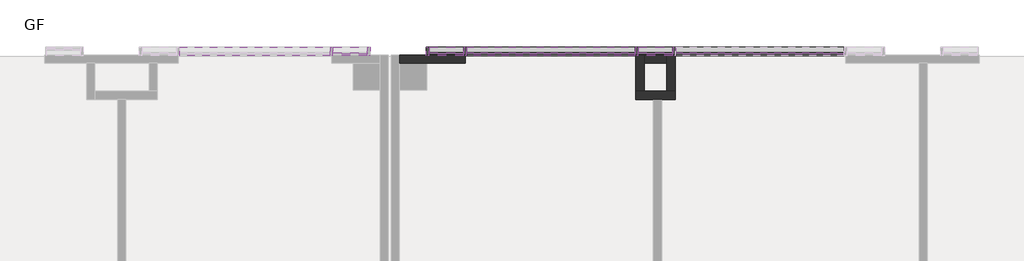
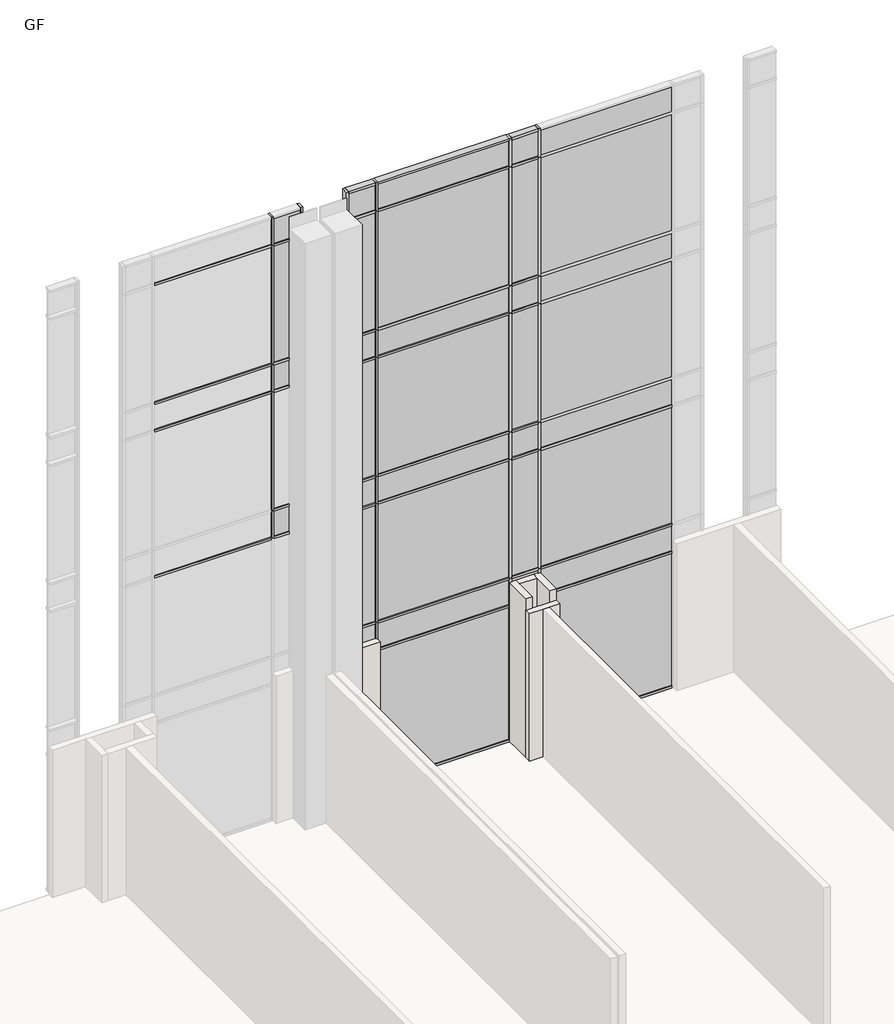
# One storey, part 19 of 23: 81 members, 36 plates, 5 walls.
"""IFC4 building model written with IfcOpenShell, lengths in millimetres."""

from ifc_helpers import new_model, si_unit, frame, origin, place, context, project, spatial, polyline, outline, extrude, faceted_brep, transform, mapped, element, save
from components import rectangular_mullion_50_x_150mm_64d38db8, rectangular_mullion_50_x_150mm_68b3818a, rectangular_mullion_50_x_150mm_f245f1eb, rectangular_mullion_50_x_150mm_5fdcfccd, rectangular_mullion_50_x_150mm_d11e3bb4, rectangular_mullion_50_x_150mm_7d543e93, rectangular_mullion_50_x_150mm_9e0f1e24, rectangular_mullion_50_x_150mm_dbb82e9e, rectangular_mullion_50_x_150mm_32aaa733, rectangular_mullion_50_x_150mm_9b8962c0, rectangular_mullion_50_x_150mm_a95743fc, rectangular_mullion_50_x_150mm_2ef494cb, rectangular_mullion_50_x_150mm_4ae6e471, system_panel_glazed_f9f902e6, system_panel_glazed_6ff5b55b, system_panel_glazed_93ed122c, system_panel_glazed_123eee61, system_panel_glazed_ddb5812e, system_panel_glazed_21c84cce

model = new_model("IFC4")

# Units and contexts
model_context = context("Model", 3, world=origin())
ifc_project = project(units=[si_unit("LENGTHUNIT", "METRE", prefix="MILLI")], contexts=[model_context])

# Site, building, storey
site = spatial("IfcSite", under=ifc_project)
building = spatial("IfcBuilding", under=site)
storey = spatial("IfcBuildingStorey", under=building, Name="GF", Elevation=900.0)

# Members
placement = place(None, origin())
rectangular_mullion_50_x_150mm_shape = rectangular_mullion_50_x_150mm_64d38db8(model_context)
element("IfcMember", 1, ObjectType="Rectangular Mullion : 50 x 150mm", at=placement, inside=storey, context=model_context, shape_type="MappedRepresentation", body=[
    mapped(rectangular_mullion_50_x_150mm_shape, transform((2342.4134101, 21322.3851347, 15125.0), x_axis=(0.0, 0.0, 1.0), y_axis=(0.0, -1.0, 0.0), z_axis=(1.0, 0.0, 0.0))),
])
element("IfcMember", 2, ObjectType="Rectangular Mullion : 50 x 150mm", at=placement, inside=storey, context=model_context, shape_type="MappedRepresentation", body=[
    mapped(rectangular_mullion_50_x_150mm_shape, transform((5974.9134101, 21322.3851347, 15125.0), x_axis=(0.0, 0.0, 1.0), y_axis=(0.0, -1.0, 0.0), z_axis=(1.0, 0.0, 0.0))),
])
element("IfcMember", 3, ObjectType="Rectangular Mullion : 50 x 150mm", at=placement, inside=storey, context=model_context, shape_type="MappedRepresentation", body=[
    mapped(rectangular_mullion_50_x_150mm_shape, transform((1742.4134101, 21322.3851347, 900.0), x_axis=(0.0, 0.0, -1.0), y_axis=(0.0, -1.0, 0.0), z_axis=(-1.0, 0.0, 0.0))),
])
element("IfcMember", 4, ObjectType="Rectangular Mullion : 50 x 150mm", at=placement, inside=storey, context=model_context, shape_type="MappedRepresentation", body=[
    mapped(rectangular_mullion_50_x_150mm_shape, transform((5374.9134101, 21322.3851347, 900.0), x_axis=(0.0, 0.0, -1.0), y_axis=(0.0, -1.0, 0.0), z_axis=(-1.0, 0.0, 0.0))),
])
rectangular_mullion_50_x_150mm_2_shape = rectangular_mullion_50_x_150mm_68b3818a(model_context)
element("IfcMember", 5, ObjectType="Rectangular Mullion : 50 x 150mm", at=placement, inside=storey, context=model_context, shape_type="MappedRepresentation", body=[
    mapped(rectangular_mullion_50_x_150mm_2_shape, transform((672.4134101, 21322.3851347, 8200.0), x_axis=(0.0, 0.0, 1.0), y_axis=(0.0, -1.0, 0.0), z_axis=(1.0, 0.0, 0.0))),
])
element("IfcMember", 6, ObjectType="Rectangular Mullion : 50 x 150mm", at=placement, inside=storey, context=model_context, shape_type="MappedRepresentation", body=[
    mapped(rectangular_mullion_50_x_150mm_2_shape, transform((672.4134101, 21322.3851347, 11650.0), x_axis=(0.0, 0.0, 1.0), y_axis=(0.0, -1.0, 0.0), z_axis=(1.0, 0.0, 0.0))),
])
element("IfcMember", 7, ObjectType="Rectangular Mullion : 50 x 150mm", at=placement, inside=storey, context=model_context, shape_type="MappedRepresentation", body=[
    mapped(rectangular_mullion_50_x_150mm_2_shape, transform((672.4134101, 21322.3851347, 7550.0), x_axis=(0.0, 0.0, 1.0), y_axis=(0.0, -1.0, 0.0), z_axis=(1.0, 0.0, 0.0))),
])
element("IfcMember", 8, ObjectType="Rectangular Mullion : 50 x 150mm", at=placement, inside=storey, context=model_context, shape_type="MappedRepresentation", body=[
    mapped(rectangular_mullion_50_x_150mm_2_shape, transform((672.4134101, 21322.3851347, 11000.0), x_axis=(0.0, 0.0, 1.0), y_axis=(0.0, -1.0, 0.0), z_axis=(1.0, 0.0, 0.0))),
])
element("IfcMember", 9, ObjectType="Rectangular Mullion : 50 x 150mm", at=placement, inside=storey, context=model_context, shape_type="MappedRepresentation", body=[
    mapped(rectangular_mullion_50_x_150mm_2_shape, transform((672.4134101, 21322.3851347, 14450.0), x_axis=(0.0, 0.0, 1.0), y_axis=(0.0, -1.0, 0.0), z_axis=(1.0, 0.0, 0.0))),
])
element("IfcMember", 10, ObjectType="Rectangular Mullion : 50 x 150mm", at=placement, inside=storey, context=model_context, shape_type="MappedRepresentation", body=[
    mapped(rectangular_mullion_50_x_150mm_2_shape, transform((2342.4134101, 21322.3851347, 4750.0), x_axis=(0.0, 0.0, 1.0), y_axis=(0.0, -1.0, 0.0), z_axis=(1.0, 0.0, 0.0))),
])
element("IfcMember", 11, ObjectType="Rectangular Mullion : 50 x 150mm", at=placement, inside=storey, context=model_context, shape_type="MappedRepresentation", body=[
    mapped(rectangular_mullion_50_x_150mm_2_shape, transform((5974.9134101, 21322.3851347, 4750.0), x_axis=(0.0, 0.0, 1.0), y_axis=(0.0, -1.0, 0.0), z_axis=(1.0, 0.0, 0.0))),
])
element("IfcMember", 12, ObjectType="Rectangular Mullion : 50 x 150mm", at=placement, inside=storey, context=model_context, shape_type="MappedRepresentation", body=[
    mapped(rectangular_mullion_50_x_150mm_2_shape, transform((2342.4134101, 21322.3851347, 4100.0), x_axis=(0.0, 0.0, 1.0), y_axis=(0.0, -1.0, 0.0), z_axis=(1.0, 0.0, 0.0))),
])
element("IfcMember", 13, ObjectType="Rectangular Mullion : 50 x 150mm", at=placement, inside=storey, context=model_context, shape_type="MappedRepresentation", body=[
    mapped(rectangular_mullion_50_x_150mm_2_shape, transform((5974.9134101, 21322.3851347, 4100.0), x_axis=(0.0, 0.0, 1.0), y_axis=(0.0, -1.0, 0.0), z_axis=(1.0, 0.0, 0.0))),
])
element("IfcMember", 14, ObjectType="Rectangular Mullion : 50 x 150mm", at=placement, inside=storey, context=model_context, shape_type="MappedRepresentation", body=[
    mapped(rectangular_mullion_50_x_150mm_2_shape, transform((2342.4134101, 21322.3851347, 8200.0), x_axis=(0.0, 0.0, 1.0), y_axis=(0.0, -1.0, 0.0), z_axis=(1.0, 0.0, 0.0))),
])
element("IfcMember", 15, ObjectType="Rectangular Mullion : 50 x 150mm", at=placement, inside=storey, context=model_context, shape_type="MappedRepresentation", body=[
    mapped(rectangular_mullion_50_x_150mm_2_shape, transform((5974.9134101, 21322.3851347, 8200.0), x_axis=(0.0, 0.0, 1.0), y_axis=(0.0, -1.0, 0.0), z_axis=(1.0, 0.0, 0.0))),
])
element("IfcMember", 16, ObjectType="Rectangular Mullion : 50 x 150mm", at=placement, inside=storey, context=model_context, shape_type="MappedRepresentation", body=[
    mapped(rectangular_mullion_50_x_150mm_2_shape, transform((2342.4134101, 21322.3851347, 11650.0), x_axis=(0.0, 0.0, 1.0), y_axis=(0.0, -1.0, 0.0), z_axis=(1.0, 0.0, 0.0))),
])
element("IfcMember", 17, ObjectType="Rectangular Mullion : 50 x 150mm", at=placement, inside=storey, context=model_context, shape_type="MappedRepresentation", body=[
    mapped(rectangular_mullion_50_x_150mm_2_shape, transform((5974.9134101, 21322.3851347, 11650.0), x_axis=(0.0, 0.0, 1.0), y_axis=(0.0, -1.0, 0.0), z_axis=(1.0, 0.0, 0.0))),
])
element("IfcMember", 18, ObjectType="Rectangular Mullion : 50 x 150mm", at=placement, inside=storey, context=model_context, shape_type="MappedRepresentation", body=[
    mapped(rectangular_mullion_50_x_150mm_2_shape, transform((2342.4134101, 21322.3851347, 7550.0), x_axis=(0.0, 0.0, 1.0), y_axis=(0.0, -1.0, 0.0), z_axis=(1.0, 0.0, 0.0))),
])
element("IfcMember", 19, ObjectType="Rectangular Mullion : 50 x 150mm", at=placement, inside=storey, context=model_context, shape_type="MappedRepresentation", body=[
    mapped(rectangular_mullion_50_x_150mm_2_shape, transform((5974.9134101, 21322.3851347, 7550.0), x_axis=(0.0, 0.0, 1.0), y_axis=(0.0, -1.0, 0.0), z_axis=(1.0, 0.0, 0.0))),
])
element("IfcMember", 20, ObjectType="Rectangular Mullion : 50 x 150mm", at=placement, inside=storey, context=model_context, shape_type="MappedRepresentation", body=[
    mapped(rectangular_mullion_50_x_150mm_2_shape, transform((2342.4134101, 21322.3851347, 11000.0), x_axis=(0.0, 0.0, 1.0), y_axis=(0.0, -1.0, 0.0), z_axis=(1.0, 0.0, 0.0))),
])
element("IfcMember", 21, ObjectType="Rectangular Mullion : 50 x 150mm", at=placement, inside=storey, context=model_context, shape_type="MappedRepresentation", body=[
    mapped(rectangular_mullion_50_x_150mm_2_shape, transform((5974.9134101, 21322.3851347, 11000.0), x_axis=(0.0, 0.0, 1.0), y_axis=(0.0, -1.0, 0.0), z_axis=(1.0, 0.0, 0.0))),
])
element("IfcMember", 22, ObjectType="Rectangular Mullion : 50 x 150mm", at=placement, inside=storey, context=model_context, shape_type="MappedRepresentation", body=[
    mapped(rectangular_mullion_50_x_150mm_2_shape, transform((2342.4134101, 21322.3851347, 14450.0), x_axis=(0.0, 0.0, 1.0), y_axis=(0.0, -1.0, 0.0), z_axis=(1.0, 0.0, 0.0))),
])
element("IfcMember", 23, ObjectType="Rectangular Mullion : 50 x 150mm", at=placement, inside=storey, context=model_context, shape_type="MappedRepresentation", body=[
    mapped(rectangular_mullion_50_x_150mm_2_shape, transform((5974.9134101, 21322.3851347, 14450.0), x_axis=(0.0, 0.0, 1.0), y_axis=(0.0, -1.0, 0.0), z_axis=(1.0, 0.0, 0.0))),
])
rectangular_mullion_50_x_150mm_3_shape = rectangular_mullion_50_x_150mm_f245f1eb(model_context)
element("IfcMember", 24, ObjectType="Rectangular Mullion : 50 x 150mm", at=placement, inside=storey, context=model_context, shape_type="MappedRepresentation", body=[
    mapped(rectangular_mullion_50_x_150mm_3_shape, transform((2367.4134101, 21322.3851347, 900.0), x_axis=(1.0, 0.0, 0.0), y_axis=(0.0, -1.0, 0.0), z_axis=(0.0, 0.0, -1.0))),
])
element("IfcMember", 25, ObjectType="Rectangular Mullion : 50 x 150mm", at=placement, inside=storey, context=model_context, shape_type="MappedRepresentation", body=[
    mapped(rectangular_mullion_50_x_150mm_3_shape, transform((5349.9134101, 21322.3851347, 900.0), x_axis=(1.0, 0.0, 0.0), y_axis=(0.0, -1.0, 0.0), z_axis=(0.0, 0.0, -1.0))),
])
element("IfcMember", 26, ObjectType="Rectangular Mullion : 50 x 150mm", at=placement, inside=storey, context=model_context, shape_type="MappedRepresentation", body=[
    mapped(rectangular_mullion_50_x_150mm_3_shape, transform((5999.9134101, 21322.3851347, 900.0), x_axis=(1.0, 0.0, 0.0), y_axis=(0.0, -1.0, 0.0), z_axis=(0.0, 0.0, -1.0))),
])
rectangular_mullion_50_x_150mm_4_shape = rectangular_mullion_50_x_150mm_5fdcfccd(model_context)
element("IfcMember", 27, ObjectType="Rectangular Mullion : 50 x 150mm", at=placement, inside=storey, context=model_context, shape_type="MappedRepresentation", body=[
    mapped(rectangular_mullion_50_x_150mm_4_shape, transform((22.4134101, 21322.3851347, 11650.0), x_axis=(0.0, 0.0, 1.0), y_axis=(0.0, -1.0, 0.0), z_axis=(1.0, 0.0, 0.0))),
])
element("IfcMember", 28, ObjectType="Rectangular Mullion : 50 x 150mm", at=placement, inside=storey, context=model_context, shape_type="MappedRepresentation", body=[
    mapped(rectangular_mullion_50_x_150mm_4_shape, transform((22.4134101, 21322.3851347, 7550.0), x_axis=(0.0, 0.0, 1.0), y_axis=(0.0, -1.0, 0.0), z_axis=(1.0, 0.0, 0.0))),
])
element("IfcMember", 29, ObjectType="Rectangular Mullion : 50 x 150mm", at=placement, inside=storey, context=model_context, shape_type="MappedRepresentation", body=[
    mapped(rectangular_mullion_50_x_150mm_4_shape, transform((22.4134101, 21322.3851347, 11000.0), x_axis=(0.0, 0.0, 1.0), y_axis=(0.0, -1.0, 0.0), z_axis=(1.0, 0.0, 0.0))),
])
element("IfcMember", 30, ObjectType="Rectangular Mullion : 50 x 150mm", at=placement, inside=storey, context=model_context, shape_type="MappedRepresentation", body=[
    mapped(rectangular_mullion_50_x_150mm_4_shape, transform((22.4134101, 21322.3851347, 14450.0), x_axis=(0.0, 0.0, 1.0), y_axis=(0.0, -1.0, 0.0), z_axis=(1.0, 0.0, 0.0))),
])
rectangular_mullion_50_x_150mm_5_shape = rectangular_mullion_50_x_150mm_d11e3bb4(model_context)
element("IfcMember", 31, ObjectType="Rectangular Mullion : 50 x 150mm", at=placement, inside=storey, context=model_context, shape_type="MappedRepresentation", body=[
    mapped(rectangular_mullion_50_x_150mm_5_shape, transform((47.4134101, 21322.3851347, 8200.0), x_axis=(1.0, 0.0, 0.0), y_axis=(0.0, -1.0, 0.0), z_axis=(0.0, 0.0, -1.0))),
])
element("IfcMember", 32, ObjectType="Rectangular Mullion : 50 x 150mm", at=placement, inside=storey, context=model_context, shape_type="MappedRepresentation", body=[
    mapped(rectangular_mullion_50_x_150mm_5_shape, transform((47.4134101, 21322.3851347, 11650.0), x_axis=(1.0, 0.0, 0.0), y_axis=(0.0, -1.0, 0.0), z_axis=(0.0, 0.0, -1.0))),
])
element("IfcMember", 33, ObjectType="Rectangular Mullion : 50 x 150mm", at=placement, inside=storey, context=model_context, shape_type="MappedRepresentation", body=[
    mapped(rectangular_mullion_50_x_150mm_5_shape, transform((2367.4134101, 21322.3851347, 4750.0), x_axis=(1.0, 0.0, 0.0), y_axis=(0.0, -1.0, 0.0), z_axis=(0.0, 0.0, -1.0))),
])
element("IfcMember", 34, ObjectType="Rectangular Mullion : 50 x 150mm", at=placement, inside=storey, context=model_context, shape_type="MappedRepresentation", body=[
    mapped(rectangular_mullion_50_x_150mm_5_shape, transform((5349.9134101, 21322.3851347, 4750.0), x_axis=(1.0, 0.0, 0.0), y_axis=(0.0, -1.0, 0.0), z_axis=(0.0, 0.0, -1.0))),
])
element("IfcMember", 35, ObjectType="Rectangular Mullion : 50 x 150mm", at=placement, inside=storey, context=model_context, shape_type="MappedRepresentation", body=[
    mapped(rectangular_mullion_50_x_150mm_5_shape, transform((2367.4134101, 21322.3851347, 8200.0), x_axis=(1.0, 0.0, 0.0), y_axis=(0.0, -1.0, 0.0), z_axis=(0.0, 0.0, -1.0))),
])
element("IfcMember", 36, ObjectType="Rectangular Mullion : 50 x 150mm", at=placement, inside=storey, context=model_context, shape_type="MappedRepresentation", body=[
    mapped(rectangular_mullion_50_x_150mm_5_shape, transform((5349.9134101, 21322.3851347, 8200.0), x_axis=(1.0, 0.0, 0.0), y_axis=(0.0, -1.0, 0.0), z_axis=(0.0, 0.0, -1.0))),
])
element("IfcMember", 37, ObjectType="Rectangular Mullion : 50 x 150mm", at=placement, inside=storey, context=model_context, shape_type="MappedRepresentation", body=[
    mapped(rectangular_mullion_50_x_150mm_5_shape, transform((2367.4134101, 21322.3851347, 11650.0), x_axis=(1.0, 0.0, 0.0), y_axis=(0.0, -1.0, 0.0), z_axis=(0.0, 0.0, -1.0))),
])
element("IfcMember", 38, ObjectType="Rectangular Mullion : 50 x 150mm", at=placement, inside=storey, context=model_context, shape_type="MappedRepresentation", body=[
    mapped(rectangular_mullion_50_x_150mm_5_shape, transform((5349.9134101, 21322.3851347, 11650.0), x_axis=(1.0, 0.0, 0.0), y_axis=(0.0, -1.0, 0.0), z_axis=(0.0, 0.0, -1.0))),
])
element("IfcMember", 39, ObjectType="Rectangular Mullion : 50 x 150mm", at=placement, inside=storey, context=model_context, shape_type="MappedRepresentation", body=[
    mapped(rectangular_mullion_50_x_150mm_5_shape, transform((5999.9134101, 21322.3851347, 4750.0), x_axis=(1.0, 0.0, 0.0), y_axis=(0.0, -1.0, 0.0), z_axis=(0.0, 0.0, -1.0))),
])
element("IfcMember", 40, ObjectType="Rectangular Mullion : 50 x 150mm", at=placement, inside=storey, context=model_context, shape_type="MappedRepresentation", body=[
    mapped(rectangular_mullion_50_x_150mm_5_shape, transform((5999.9134101, 21322.3851347, 8200.0), x_axis=(1.0, 0.0, 0.0), y_axis=(0.0, -1.0, 0.0), z_axis=(0.0, 0.0, -1.0))),
])
element("IfcMember", 41, ObjectType="Rectangular Mullion : 50 x 150mm", at=placement, inside=storey, context=model_context, shape_type="MappedRepresentation", body=[
    mapped(rectangular_mullion_50_x_150mm_5_shape, transform((5999.9134101, 21322.3851347, 11650.0), x_axis=(1.0, 0.0, 0.0), y_axis=(0.0, -1.0, 0.0), z_axis=(0.0, 0.0, -1.0))),
])
rectangular_mullion_50_x_150mm_6_shape = rectangular_mullion_50_x_150mm_7d543e93(model_context)
element("IfcMember", 42, ObjectType="Rectangular Mullion : 50 x 150mm", at=placement, inside=storey, context=model_context, shape_type="MappedRepresentation", body=[
    mapped(rectangular_mullion_50_x_150mm_6_shape, transform((47.4134101, 21322.3851347, 7550.0), x_axis=(1.0, 0.0, 0.0), y_axis=(0.0, -1.0, 0.0), z_axis=(0.0, 0.0, -1.0))),
])
element("IfcMember", 43, ObjectType="Rectangular Mullion : 50 x 150mm", at=placement, inside=storey, context=model_context, shape_type="MappedRepresentation", body=[
    mapped(rectangular_mullion_50_x_150mm_6_shape, transform((47.4134101, 21322.3851347, 11000.0), x_axis=(1.0, 0.0, 0.0), y_axis=(0.0, -1.0, 0.0), z_axis=(0.0, 0.0, -1.0))),
])
element("IfcMember", 44, ObjectType="Rectangular Mullion : 50 x 150mm", at=placement, inside=storey, context=model_context, shape_type="MappedRepresentation", body=[
    mapped(rectangular_mullion_50_x_150mm_6_shape, transform((2367.4134101, 21322.3851347, 4100.0), x_axis=(1.0, 0.0, 0.0), y_axis=(0.0, -1.0, 0.0), z_axis=(0.0, 0.0, -1.0))),
])
element("IfcMember", 45, ObjectType="Rectangular Mullion : 50 x 150mm", at=placement, inside=storey, context=model_context, shape_type="MappedRepresentation", body=[
    mapped(rectangular_mullion_50_x_150mm_6_shape, transform((5349.9134101, 21322.3851347, 4100.0), x_axis=(1.0, 0.0, 0.0), y_axis=(0.0, -1.0, 0.0), z_axis=(0.0, 0.0, -1.0))),
])
element("IfcMember", 46, ObjectType="Rectangular Mullion : 50 x 150mm", at=placement, inside=storey, context=model_context, shape_type="MappedRepresentation", body=[
    mapped(rectangular_mullion_50_x_150mm_6_shape, transform((2367.4134101, 21322.3851347, 7550.0), x_axis=(1.0, 0.0, 0.0), y_axis=(0.0, -1.0, 0.0), z_axis=(0.0, 0.0, -1.0))),
])
element("IfcMember", 47, ObjectType="Rectangular Mullion : 50 x 150mm", at=placement, inside=storey, context=model_context, shape_type="MappedRepresentation", body=[
    mapped(rectangular_mullion_50_x_150mm_6_shape, transform((5349.9134101, 21322.3851347, 7550.0), x_axis=(1.0, 0.0, 0.0), y_axis=(0.0, -1.0, 0.0), z_axis=(0.0, 0.0, -1.0))),
])
element("IfcMember", 48, ObjectType="Rectangular Mullion : 50 x 150mm", at=placement, inside=storey, context=model_context, shape_type="MappedRepresentation", body=[
    mapped(rectangular_mullion_50_x_150mm_6_shape, transform((2367.4134101, 21322.3851347, 11000.0), x_axis=(1.0, 0.0, 0.0), y_axis=(0.0, -1.0, 0.0), z_axis=(0.0, 0.0, -1.0))),
])
element("IfcMember", 49, ObjectType="Rectangular Mullion : 50 x 150mm", at=placement, inside=storey, context=model_context, shape_type="MappedRepresentation", body=[
    mapped(rectangular_mullion_50_x_150mm_6_shape, transform((5349.9134101, 21322.3851347, 11000.0), x_axis=(1.0, 0.0, 0.0), y_axis=(0.0, -1.0, 0.0), z_axis=(0.0, 0.0, -1.0))),
])
element("IfcMember", 50, ObjectType="Rectangular Mullion : 50 x 150mm", at=placement, inside=storey, context=model_context, shape_type="MappedRepresentation", body=[
    mapped(rectangular_mullion_50_x_150mm_6_shape, transform((5999.9134101, 21322.3851347, 4100.0), x_axis=(1.0, 0.0, 0.0), y_axis=(0.0, -1.0, 0.0), z_axis=(0.0, 0.0, -1.0))),
])
element("IfcMember", 51, ObjectType="Rectangular Mullion : 50 x 150mm", at=placement, inside=storey, context=model_context, shape_type="MappedRepresentation", body=[
    mapped(rectangular_mullion_50_x_150mm_6_shape, transform((5999.9134101, 21322.3851347, 7550.0), x_axis=(1.0, 0.0, 0.0), y_axis=(0.0, -1.0, 0.0), z_axis=(0.0, 0.0, -1.0))),
])
element("IfcMember", 52, ObjectType="Rectangular Mullion : 50 x 150mm", at=placement, inside=storey, context=model_context, shape_type="MappedRepresentation", body=[
    mapped(rectangular_mullion_50_x_150mm_6_shape, transform((5999.9134101, 21322.3851347, 11000.0), x_axis=(1.0, 0.0, 0.0), y_axis=(0.0, -1.0, 0.0), z_axis=(0.0, 0.0, -1.0))),
])
rectangular_mullion_50_x_150mm_7_shape = rectangular_mullion_50_x_150mm_9e0f1e24(model_context)
element("IfcMember", 53, ObjectType="Rectangular Mullion : 50 x 150mm", at=placement, inside=storey, context=model_context, shape_type="MappedRepresentation", body=[
    mapped(rectangular_mullion_50_x_150mm_7_shape, transform((47.4134101, 21322.3851347, 14450.0), x_axis=(1.0, 0.0, 0.0), y_axis=(0.0, -1.0, 0.0), z_axis=(0.0, 0.0, -1.0))),
])
element("IfcMember", 54, ObjectType="Rectangular Mullion : 50 x 150mm", at=placement, inside=storey, context=model_context, shape_type="MappedRepresentation", body=[
    mapped(rectangular_mullion_50_x_150mm_7_shape, transform((2367.4134101, 21322.3851347, 14450.0), x_axis=(1.0, 0.0, 0.0), y_axis=(0.0, -1.0, 0.0), z_axis=(0.0, 0.0, -1.0))),
])
element("IfcMember", 55, ObjectType="Rectangular Mullion : 50 x 150mm", at=placement, inside=storey, context=model_context, shape_type="MappedRepresentation", body=[
    mapped(rectangular_mullion_50_x_150mm_7_shape, transform((5349.9134101, 21322.3851347, 14450.0), x_axis=(1.0, 0.0, 0.0), y_axis=(0.0, -1.0, 0.0), z_axis=(0.0, 0.0, -1.0))),
])
element("IfcMember", 56, ObjectType="Rectangular Mullion : 50 x 150mm", at=placement, inside=storey, context=model_context, shape_type="MappedRepresentation", body=[
    mapped(rectangular_mullion_50_x_150mm_7_shape, transform((5999.9134101, 21322.3851347, 14450.0), x_axis=(1.0, 0.0, 0.0), y_axis=(0.0, -1.0, 0.0), z_axis=(0.0, 0.0, -1.0))),
])
rectangular_mullion_50_x_150mm_8_shape = rectangular_mullion_50_x_150mm_dbb82e9e(model_context)
element("IfcMember", 57, ObjectType="Rectangular Mullion : 50 x 150mm", at=placement, inside=storey, context=model_context, shape_type="MappedRepresentation", body=[
    mapped(rectangular_mullion_50_x_150mm_8_shape, transform((1692.4134101, 21322.3851347, 15125.0), x_axis=(-1.0, 0.0, 0.0), y_axis=(0.0, -1.0, 0.0), z_axis=(0.0, 0.0, 1.0))),
])
rectangular_mullion_50_x_150mm_9_shape = rectangular_mullion_50_x_150mm_32aaa733(model_context)
element("IfcMember", 58, ObjectType="Rectangular Mullion : 50 x 150mm", at=placement, inside=storey, context=model_context, shape_type="MappedRepresentation", body=[
    mapped(rectangular_mullion_50_x_150mm_9_shape, transform((722.4134101, 21322.3851347, 11650.0), x_axis=(1.0, 0.0, 0.0), y_axis=(0.0, -1.0, 0.0), z_axis=(0.0, 0.0, -1.0))),
])
rectangular_mullion_50_x_150mm_10_shape = rectangular_mullion_50_x_150mm_9b8962c0(model_context)
element("IfcMember", 59, ObjectType="Rectangular Mullion : 50 x 150mm", at=placement, inside=storey, context=model_context, shape_type="MappedRepresentation", body=[
    mapped(rectangular_mullion_50_x_150mm_10_shape, transform((1692.4134101, 21322.3851347, 4750.0), x_axis=(-1.0, 0.0, 0.0), y_axis=(0.0, -1.0, 0.0), z_axis=(0.0, 0.0, 1.0))),
])
element("IfcMember", 60, ObjectType="Rectangular Mullion : 50 x 150mm", at=placement, inside=storey, context=model_context, shape_type="MappedRepresentation", body=[
    mapped(rectangular_mullion_50_x_150mm_10_shape, transform((1692.4134101, 21322.3851347, 8200.0), x_axis=(-1.0, 0.0, 0.0), y_axis=(0.0, -1.0, 0.0), z_axis=(0.0, 0.0, 1.0))),
])
element("IfcMember", 61, ObjectType="Rectangular Mullion : 50 x 150mm", at=placement, inside=storey, context=model_context, shape_type="MappedRepresentation", body=[
    mapped(rectangular_mullion_50_x_150mm_10_shape, transform((1692.4134101, 21322.3851347, 11650.0), x_axis=(-1.0, 0.0, 0.0), y_axis=(0.0, -1.0, 0.0), z_axis=(0.0, 0.0, 1.0))),
])
element("IfcMember", 62, ObjectType="Rectangular Mullion : 50 x 150mm", at=placement, inside=storey, context=model_context, shape_type="MappedRepresentation", body=[
    mapped(rectangular_mullion_50_x_150mm_10_shape, transform((722.4134101, 21322.3851347, 7550.0), x_axis=(1.0, 0.0, 0.0), y_axis=(0.0, -1.0, 0.0), z_axis=(0.0, 0.0, -1.0))),
])
element("IfcMember", 63, ObjectType="Rectangular Mullion : 50 x 150mm", at=placement, inside=storey, context=model_context, shape_type="MappedRepresentation", body=[
    mapped(rectangular_mullion_50_x_150mm_10_shape, transform((722.4134101, 21322.3851347, 11000.0), x_axis=(1.0, 0.0, 0.0), y_axis=(0.0, -1.0, 0.0), z_axis=(0.0, 0.0, -1.0))),
])
rectangular_mullion_50_x_150mm_11_shape = rectangular_mullion_50_x_150mm_a95743fc(model_context)
element("IfcMember", 64, ObjectType="Rectangular Mullion : 50 x 150mm", at=placement, inside=storey, context=model_context, shape_type="MappedRepresentation", body=[
    mapped(rectangular_mullion_50_x_150mm_11_shape, transform((1692.4134101, 21322.3851347, 4100.0), x_axis=(-1.0, 0.0, 0.0), y_axis=(0.0, -1.0, 0.0), z_axis=(0.0, 0.0, 1.0))),
])
element("IfcMember", 65, ObjectType="Rectangular Mullion : 50 x 150mm", at=placement, inside=storey, context=model_context, shape_type="MappedRepresentation", body=[
    mapped(rectangular_mullion_50_x_150mm_9_shape, transform((1692.4134101, 21322.3851347, 7550.0), x_axis=(-1.0, 0.0, 0.0), y_axis=(0.0, -1.0, 0.0), z_axis=(0.0, 0.0, 1.0))),
])
element("IfcMember", 66, ObjectType="Rectangular Mullion : 50 x 150mm", at=placement, inside=storey, context=model_context, shape_type="MappedRepresentation", body=[
    mapped(rectangular_mullion_50_x_150mm_9_shape, transform((1692.4134101, 21322.3851347, 11000.0), x_axis=(-1.0, 0.0, 0.0), y_axis=(0.0, -1.0, 0.0), z_axis=(0.0, 0.0, 1.0))),
])
element("IfcMember", 67, ObjectType="Rectangular Mullion : 50 x 150mm", at=placement, inside=storey, context=model_context, shape_type="MappedRepresentation", body=[
    mapped(rectangular_mullion_50_x_150mm_9_shape, transform((1692.4134101, 21322.3851347, 14450.0), x_axis=(-1.0, 0.0, 0.0), y_axis=(0.0, -1.0, 0.0), z_axis=(0.0, 0.0, 1.0))),
])
element("IfcMember", 68, ObjectType="Rectangular Mullion : 50 x 150mm", at=placement, inside=storey, context=model_context, shape_type="MappedRepresentation", body=[
    mapped(rectangular_mullion_50_x_150mm_8_shape, transform((722.4134101, 21322.3851347, 14450.0), x_axis=(1.0, 0.0, 0.0), y_axis=(0.0, -1.0, 0.0), z_axis=(0.0, 0.0, -1.0))),
])
rectangular_mullion_50_x_150mm_12_shape = rectangular_mullion_50_x_150mm_2ef494cb(model_context)
element("IfcMember", 69, ObjectType="Rectangular Mullion : 50 x 150mm", at=placement, inside=storey, context=model_context, shape_type="MappedRepresentation", body=[
    mapped(rectangular_mullion_50_x_150mm_12_shape, transform((2392.4134101, 21322.3851347, 900.0), x_axis=(0.0, 0.0, -1.0), y_axis=(0.0, -1.0, 0.0), z_axis=(-1.0, 0.0, 0.0))),
])
element("IfcMember", 70, ObjectType="Rectangular Mullion : 50 x 150mm", at=placement, inside=storey, context=model_context, shape_type="MappedRepresentation", body=[
    mapped(rectangular_mullion_50_x_150mm_12_shape, transform((6024.9134101, 21322.3851347, 900.0), x_axis=(0.0, 0.0, -1.0), y_axis=(0.0, -1.0, 0.0), z_axis=(-1.0, 0.0, 0.0))),
])
element("IfcMember", 71, ObjectType="Rectangular Mullion : 50 x 150mm", at=placement, inside=storey, context=model_context, shape_type="MappedRepresentation", body=[
    mapped(rectangular_mullion_50_x_150mm_12_shape, transform((5324.9134101, 21322.3851347, 15125.0), x_axis=(0.0, 0.0, 1.0), y_axis=(0.0, -1.0, 0.0), z_axis=(1.0, 0.0, 0.0))),
])
rectangular_mullion_50_x_150mm_13_shape = rectangular_mullion_50_x_150mm_4ae6e471(model_context)
element("IfcMember", 72, ObjectType="Rectangular Mullion : 50 x 150mm", at=placement, inside=storey, context=model_context, shape_type="MappedRepresentation", body=[
    mapped(rectangular_mullion_50_x_150mm_13_shape, transform((5324.9134101, 21322.3851347, 4750.0), x_axis=(0.0, 0.0, 1.0), y_axis=(0.0, -1.0, 0.0), z_axis=(1.0, 0.0, 0.0))),
])
element("IfcMember", 73, ObjectType="Rectangular Mullion : 50 x 150mm", at=placement, inside=storey, context=model_context, shape_type="MappedRepresentation", body=[
    mapped(rectangular_mullion_50_x_150mm_13_shape, transform((5324.9134101, 21322.3851347, 4100.0), x_axis=(0.0, 0.0, 1.0), y_axis=(0.0, -1.0, 0.0), z_axis=(1.0, 0.0, 0.0))),
])
element("IfcMember", 74, ObjectType="Rectangular Mullion : 50 x 150mm", at=placement, inside=storey, context=model_context, shape_type="MappedRepresentation", body=[
    mapped(rectangular_mullion_50_x_150mm_13_shape, transform((5324.9134101, 21322.3851347, 8200.0), x_axis=(0.0, 0.0, 1.0), y_axis=(0.0, -1.0, 0.0), z_axis=(1.0, 0.0, 0.0))),
])
element("IfcMember", 75, ObjectType="Rectangular Mullion : 50 x 150mm", at=placement, inside=storey, context=model_context, shape_type="MappedRepresentation", body=[
    mapped(rectangular_mullion_50_x_150mm_13_shape, transform((5324.9134101, 21322.3851347, 11650.0), x_axis=(0.0, 0.0, 1.0), y_axis=(0.0, -1.0, 0.0), z_axis=(1.0, 0.0, 0.0))),
])
element("IfcMember", 76, ObjectType="Rectangular Mullion : 50 x 150mm", at=placement, inside=storey, context=model_context, shape_type="MappedRepresentation", body=[
    mapped(rectangular_mullion_50_x_150mm_13_shape, transform((5324.9134101, 21322.3851347, 7550.0), x_axis=(0.0, 0.0, 1.0), y_axis=(0.0, -1.0, 0.0), z_axis=(1.0, 0.0, 0.0))),
])
element("IfcMember", 77, ObjectType="Rectangular Mullion : 50 x 150mm", at=placement, inside=storey, context=model_context, shape_type="MappedRepresentation", body=[
    mapped(rectangular_mullion_50_x_150mm_13_shape, transform((5324.9134101, 21322.3851347, 11000.0), x_axis=(0.0, 0.0, 1.0), y_axis=(0.0, -1.0, 0.0), z_axis=(1.0, 0.0, 0.0))),
])
element("IfcMember", 78, ObjectType="Rectangular Mullion : 50 x 150mm", at=placement, inside=storey, context=model_context, shape_type="MappedRepresentation", body=[
    mapped(rectangular_mullion_50_x_150mm_13_shape, transform((5324.9134101, 21322.3851347, 14450.0), x_axis=(0.0, 0.0, 1.0), y_axis=(0.0, -1.0, 0.0), z_axis=(1.0, 0.0, 0.0))),
])
element("IfcMember", 79, ObjectType="Rectangular Mullion : 50 x 150mm", at=placement, inside=storey, context=model_context, shape_type="MappedRepresentation", body=[
    mapped(rectangular_mullion_50_x_150mm_13_shape, transform((8957.4134101, 21322.3851347, 4100.0), x_axis=(0.0, 0.0, 1.0), y_axis=(0.0, -1.0, 0.0), z_axis=(1.0, 0.0, 0.0))),
])
element("IfcMember", 80, ObjectType="Rectangular Mullion : 50 x 150mm", at=placement, inside=storey, context=model_context, shape_type="MappedRepresentation", body=[
    mapped(rectangular_mullion_50_x_150mm_13_shape, transform((8957.4134101, 21322.3851347, 4750.0), x_axis=(0.0, 0.0, 1.0), y_axis=(0.0, -1.0, 0.0), z_axis=(1.0, 0.0, 0.0))),
])
element("IfcMember", 81, ObjectType="Rectangular Mullion : 50 x 150mm", at=placement, inside=storey, context=model_context, shape_type="MappedRepresentation", body=[
    mapped(rectangular_mullion_50_x_150mm_13_shape, transform((8957.4134101, 21322.3851347, 7550.0), x_axis=(0.0, 0.0, 1.0), y_axis=(0.0, -1.0, 0.0), z_axis=(1.0, 0.0, 0.0))),
])

# Plates
system_panel_glazed_shape = system_panel_glazed_f9f902e6(model_context)
element("IfcPlate", 82, ObjectType="System Panel : Glazed", at=placement, inside=storey, context=model_context, shape_type="MappedRepresentation", body=[
    mapped(system_panel_glazed_shape, transform((2042.4134101, 21322.3851347, 950.0), x_axis=(1.0, 0.0, 0.0), y_axis=(0.0, 1.0, 0.0), z_axis=(0.0, 0.0, 1.0))),
])
element("IfcPlate", 83, ObjectType="System Panel : Glazed", at=placement, inside=storey, context=model_context, shape_type="MappedRepresentation", body=[
    mapped(system_panel_glazed_shape, transform((5674.9134101, 21322.3851347, 950.0), x_axis=(1.0, 0.0, 0.0), y_axis=(0.0, 1.0, 0.0), z_axis=(0.0, 0.0, 1.0))),
])
system_panel_glazed_2_shape = system_panel_glazed_6ff5b55b(model_context)
element("IfcPlate", 84, ObjectType="System Panel : Glazed", at=placement, inside=storey, context=model_context, shape_type="MappedRepresentation", body=[
    mapped(system_panel_glazed_2_shape, transform((372.4134101, 21322.3851347, 11675.0), x_axis=(1.0, 0.0, 0.0), y_axis=(0.0, 1.0, 0.0), z_axis=(0.0, 0.0, 1.0))),
])
element("IfcPlate", 85, ObjectType="System Panel : Glazed", at=placement, inside=storey, context=model_context, shape_type="MappedRepresentation", body=[
    mapped(system_panel_glazed_2_shape, transform((2042.4134101, 21322.3851347, 4775.0), x_axis=(1.0, 0.0, 0.0), y_axis=(0.0, 1.0, 0.0), z_axis=(0.0, 0.0, 1.0))),
])
element("IfcPlate", 86, ObjectType="System Panel : Glazed", at=placement, inside=storey, context=model_context, shape_type="MappedRepresentation", body=[
    mapped(system_panel_glazed_2_shape, transform((5674.9134101, 21322.3851347, 4775.0), x_axis=(1.0, 0.0, 0.0), y_axis=(0.0, 1.0, 0.0), z_axis=(0.0, 0.0, 1.0))),
])
element("IfcPlate", 87, ObjectType="System Panel : Glazed", at=placement, inside=storey, context=model_context, shape_type="MappedRepresentation", body=[
    mapped(system_panel_glazed_2_shape, transform((2042.4134101, 21322.3851347, 8225.0), x_axis=(1.0, 0.0, 0.0), y_axis=(0.0, 1.0, 0.0), z_axis=(0.0, 0.0, 1.0))),
])
element("IfcPlate", 88, ObjectType="System Panel : Glazed", at=placement, inside=storey, context=model_context, shape_type="MappedRepresentation", body=[
    mapped(system_panel_glazed_2_shape, transform((5674.9134101, 21322.3851347, 8225.0), x_axis=(1.0, 0.0, 0.0), y_axis=(0.0, 1.0, 0.0), z_axis=(0.0, 0.0, 1.0))),
])
element("IfcPlate", 89, ObjectType="System Panel : Glazed", at=placement, inside=storey, context=model_context, shape_type="MappedRepresentation", body=[
    mapped(system_panel_glazed_2_shape, transform((2042.4134101, 21322.3851347, 11675.0), x_axis=(1.0, 0.0, 0.0), y_axis=(0.0, 1.0, 0.0), z_axis=(0.0, 0.0, 1.0))),
])
element("IfcPlate", 90, ObjectType="System Panel : Glazed", at=placement, inside=storey, context=model_context, shape_type="MappedRepresentation", body=[
    mapped(system_panel_glazed_2_shape, transform((5674.9134101, 21322.3851347, 11675.0), x_axis=(1.0, 0.0, 0.0), y_axis=(0.0, 1.0, 0.0), z_axis=(0.0, 0.0, 1.0))),
])
system_panel_glazed_3_shape = system_panel_glazed_93ed122c(model_context)
element("IfcPlate", 91, ObjectType="System Panel : Glazed", at=placement, inside=storey, context=model_context, shape_type="MappedRepresentation", body=[
    mapped(system_panel_glazed_3_shape, transform((372.4134101, 21322.3851347, 7575.0), x_axis=(1.0, 0.0, 0.0), y_axis=(0.0, 1.0, 0.0), z_axis=(0.0, 0.0, 1.0))),
])
element("IfcPlate", 92, ObjectType="System Panel : Glazed", at=placement, inside=storey, context=model_context, shape_type="MappedRepresentation", body=[
    mapped(system_panel_glazed_3_shape, transform((372.4134101, 21322.3851347, 11025.0), x_axis=(1.0, 0.0, 0.0), y_axis=(0.0, 1.0, 0.0), z_axis=(0.0, 0.0, 1.0))),
])
element("IfcPlate", 93, ObjectType="System Panel : Glazed", at=placement, inside=storey, context=model_context, shape_type="MappedRepresentation", body=[
    mapped(system_panel_glazed_3_shape, transform((372.4134101, 21322.3851347, 14475.0), x_axis=(1.0, 0.0, 0.0), y_axis=(0.0, 1.0, 0.0), z_axis=(0.0, 0.0, 1.0))),
])
element("IfcPlate", 94, ObjectType="System Panel : Glazed", at=placement, inside=storey, context=model_context, shape_type="MappedRepresentation", body=[
    mapped(system_panel_glazed_3_shape, transform((2042.4134101, 21322.3851347, 4125.0), x_axis=(1.0, 0.0, 0.0), y_axis=(0.0, 1.0, 0.0), z_axis=(0.0, 0.0, 1.0))),
])
element("IfcPlate", 95, ObjectType="System Panel : Glazed", at=placement, inside=storey, context=model_context, shape_type="MappedRepresentation", body=[
    mapped(system_panel_glazed_3_shape, transform((5674.9134101, 21322.3851347, 4125.0), x_axis=(1.0, 0.0, 0.0), y_axis=(0.0, 1.0, 0.0), z_axis=(0.0, 0.0, 1.0))),
])
element("IfcPlate", 96, ObjectType="System Panel : Glazed", at=placement, inside=storey, context=model_context, shape_type="MappedRepresentation", body=[
    mapped(system_panel_glazed_3_shape, transform((2042.4134101, 21322.3851347, 7575.0), x_axis=(1.0, 0.0, 0.0), y_axis=(0.0, 1.0, 0.0), z_axis=(0.0, 0.0, 1.0))),
])
element("IfcPlate", 97, ObjectType="System Panel : Glazed", at=placement, inside=storey, context=model_context, shape_type="MappedRepresentation", body=[
    mapped(system_panel_glazed_3_shape, transform((5674.9134101, 21322.3851347, 7575.0), x_axis=(1.0, 0.0, 0.0), y_axis=(0.0, 1.0, 0.0), z_axis=(0.0, 0.0, 1.0))),
])
element("IfcPlate", 98, ObjectType="System Panel : Glazed", at=placement, inside=storey, context=model_context, shape_type="MappedRepresentation", body=[
    mapped(system_panel_glazed_3_shape, transform((2042.4134101, 21322.3851347, 11025.0), x_axis=(1.0, 0.0, 0.0), y_axis=(0.0, 1.0, 0.0), z_axis=(0.0, 0.0, 1.0))),
])
element("IfcPlate", 99, ObjectType="System Panel : Glazed", at=placement, inside=storey, context=model_context, shape_type="MappedRepresentation", body=[
    mapped(system_panel_glazed_3_shape, transform((5674.9134101, 21322.3851347, 11025.0), x_axis=(1.0, 0.0, 0.0), y_axis=(0.0, 1.0, 0.0), z_axis=(0.0, 0.0, 1.0))),
])
element("IfcPlate", 100, ObjectType="System Panel : Glazed", at=placement, inside=storey, context=model_context, shape_type="MappedRepresentation", body=[
    mapped(system_panel_glazed_3_shape, transform((2042.4134101, 21322.3851347, 14475.0), x_axis=(1.0, 0.0, 0.0), y_axis=(0.0, 1.0, 0.0), z_axis=(0.0, 0.0, 1.0))),
])
element("IfcPlate", 101, ObjectType="System Panel : Glazed", at=placement, inside=storey, context=model_context, shape_type="MappedRepresentation", body=[
    mapped(system_panel_glazed_3_shape, transform((5674.9134101, 21322.3851347, 14475.0), x_axis=(1.0, 0.0, 0.0), y_axis=(0.0, 1.0, 0.0), z_axis=(0.0, 0.0, 1.0))),
])
system_panel_glazed_4_shape = system_panel_glazed_123eee61(model_context)
element("IfcPlate", 102, ObjectType="System Panel : Glazed", at=placement, inside=storey, context=model_context, shape_type="MappedRepresentation", body=[
    mapped(system_panel_glazed_4_shape, transform((3858.6634101, 21322.3851347, 950.0), x_axis=(1.0, 0.0, 0.0), y_axis=(0.0, 1.0, 0.0), z_axis=(0.0, 0.0, 1.0))),
])
element("IfcPlate", 103, ObjectType="System Panel : Glazed", at=placement, inside=storey, context=model_context, shape_type="MappedRepresentation", body=[
    mapped(system_panel_glazed_4_shape, transform((7491.1634101, 21322.3851347, 950.0), x_axis=(1.0, 0.0, 0.0), y_axis=(0.0, 1.0, 0.0), z_axis=(0.0, 0.0, 1.0))),
])
system_panel_glazed_5_shape = system_panel_glazed_ddb5812e(model_context)
element("IfcPlate", 104, ObjectType="System Panel : Glazed", at=placement, inside=storey, context=model_context, shape_type="MappedRepresentation", body=[
    mapped(system_panel_glazed_5_shape, transform((3858.6634101, 21322.3851347, 4775.0), x_axis=(1.0, 0.0, 0.0), y_axis=(0.0, 1.0, 0.0), z_axis=(0.0, 0.0, 1.0))),
])
element("IfcPlate", 105, ObjectType="System Panel : Glazed", at=placement, inside=storey, context=model_context, shape_type="MappedRepresentation", body=[
    mapped(system_panel_glazed_5_shape, transform((3858.6634101, 21322.3851347, 8225.0), x_axis=(1.0, 0.0, 0.0), y_axis=(0.0, 1.0, 0.0), z_axis=(0.0, 0.0, 1.0))),
])
element("IfcPlate", 106, ObjectType="System Panel : Glazed", at=placement, inside=storey, context=model_context, shape_type="MappedRepresentation", body=[
    mapped(system_panel_glazed_5_shape, transform((3858.6634101, 21322.3851347, 11675.0), x_axis=(1.0, 0.0, 0.0), y_axis=(0.0, 1.0, 0.0), z_axis=(0.0, 0.0, 1.0))),
])
element("IfcPlate", 107, ObjectType="System Panel : Glazed", at=placement, inside=storey, context=model_context, shape_type="MappedRepresentation", body=[
    mapped(system_panel_glazed_5_shape, transform((7491.1634101, 21322.3851347, 4775.0), x_axis=(1.0, 0.0, 0.0), y_axis=(0.0, 1.0, 0.0), z_axis=(0.0, 0.0, 1.0))),
])
element("IfcPlate", 108, ObjectType="System Panel : Glazed", at=placement, inside=storey, context=model_context, shape_type="MappedRepresentation", body=[
    mapped(system_panel_glazed_5_shape, transform((7491.1634101, 21322.3851347, 8225.0), x_axis=(1.0, 0.0, 0.0), y_axis=(0.0, 1.0, 0.0), z_axis=(0.0, 0.0, 1.0))),
])
element("IfcPlate", 109, ObjectType="System Panel : Glazed", at=placement, inside=storey, context=model_context, shape_type="MappedRepresentation", body=[
    mapped(system_panel_glazed_5_shape, transform((7491.1634101, 21322.3851347, 11675.0), x_axis=(1.0, 0.0, 0.0), y_axis=(0.0, 1.0, 0.0), z_axis=(0.0, 0.0, 1.0))),
])
system_panel_glazed_6_shape = system_panel_glazed_21c84cce(model_context)
element("IfcPlate", 110, ObjectType="System Panel : Glazed", at=placement, inside=storey, context=model_context, shape_type="MappedRepresentation", body=[
    mapped(system_panel_glazed_6_shape, transform((3858.6634101, 21322.3851347, 4125.0), x_axis=(1.0, 0.0, 0.0), y_axis=(0.0, 1.0, 0.0), z_axis=(0.0, 0.0, 1.0))),
])
element("IfcPlate", 111, ObjectType="System Panel : Glazed", at=placement, inside=storey, context=model_context, shape_type="MappedRepresentation", body=[
    mapped(system_panel_glazed_6_shape, transform((3858.6634101, 21322.3851347, 7575.0), x_axis=(1.0, 0.0, 0.0), y_axis=(0.0, 1.0, 0.0), z_axis=(0.0, 0.0, 1.0))),
])
element("IfcPlate", 112, ObjectType="System Panel : Glazed", at=placement, inside=storey, context=model_context, shape_type="MappedRepresentation", body=[
    mapped(system_panel_glazed_6_shape, transform((3858.6634101, 21322.3851347, 11025.0), x_axis=(1.0, 0.0, 0.0), y_axis=(0.0, 1.0, 0.0), z_axis=(0.0, 0.0, 1.0))),
])
element("IfcPlate", 113, ObjectType="System Panel : Glazed", at=placement, inside=storey, context=model_context, shape_type="MappedRepresentation", body=[
    mapped(system_panel_glazed_6_shape, transform((3858.6634101, 21322.3851347, 14475.0), x_axis=(1.0, 0.0, 0.0), y_axis=(0.0, 1.0, 0.0), z_axis=(0.0, 0.0, 1.0))),
])
element("IfcPlate", 114, ObjectType="System Panel : Glazed", at=placement, inside=storey, context=model_context, shape_type="MappedRepresentation", body=[
    mapped(system_panel_glazed_6_shape, transform((7491.1634101, 21322.3851347, 4125.0), x_axis=(1.0, 0.0, 0.0), y_axis=(0.0, 1.0, 0.0), z_axis=(0.0, 0.0, 1.0))),
])
element("IfcPlate", 115, ObjectType="System Panel : Glazed", at=placement, inside=storey, context=model_context, shape_type="MappedRepresentation", body=[
    mapped(system_panel_glazed_6_shape, transform((7491.1634101, 21322.3851347, 7575.0), x_axis=(1.0, 0.0, 0.0), y_axis=(0.0, 1.0, 0.0), z_axis=(0.0, 0.0, 1.0))),
])
element("IfcPlate", 116, ObjectType="System Panel : Glazed", at=placement, inside=storey, context=model_context, shape_type="MappedRepresentation", body=[
    mapped(system_panel_glazed_6_shape, transform((7491.1634101, 21322.3851347, 11025.0), x_axis=(1.0, 0.0, 0.0), y_axis=(0.0, 1.0, 0.0), z_axis=(0.0, 0.0, 1.0))),
])
element("IfcPlate", 117, ObjectType="System Panel : Glazed", at=placement, inside=storey, context=model_context, shape_type="MappedRepresentation", body=[
    mapped(system_panel_glazed_6_shape, transform((7491.1634101, 21322.3851347, 14475.0), x_axis=(1.0, 0.0, 0.0), y_axis=(0.0, 1.0, 0.0), z_axis=(0.0, 0.0, 1.0))),
])

# Walls
element("IfcWall", 118, ObjectType="wall-115", at=placement, inside=storey, context=model_context, shape_type="Brep", body=[
    faceted_brep([(5334.9134101, 20487.3851347, 900.0), (5639.9134101, 20487.3851347, 900.0), (5781.9134101, 20487.3851347, 900.0), (6014.9134101, 20487.3851347, 900.0), (6014.9134101, 20487.3851347, 4375.0), (5781.9134101, 20487.3851347, 4375.0), (5639.9134101, 20487.3851347, 4375.0), (5334.9134101, 20487.3851347, 4375.0), (5334.9134101, 20629.3851347, 900.0), (5334.9134101, 20629.3851347, 4375.0), (6014.9134101, 20629.3851347, 4375.0), (6014.9134101, 20629.3851347, 900.0), (5872.9134101, 20629.3851347, 900.0), (5476.9134101, 20629.3851347, 900.0)], [[[0, 1, 2, 3, 4, 5, 6, 7]], [[8, 9, 10, 11, 12, 13]], [[3, 2, 1, 0, 8, 13, 12, 11]], [[0, 7, 9, 8]], [[4, 3, 11, 10]], [[7, 6, 5, 4, 10, 9]]]),
])
element("IfcWall", 119, ObjectType="wall-115", at=placement, inside=storey, context=model_context, shape_type="Brep", body=[
    faceted_brep([(5334.9134101, 21259.3851347, 900.0), (5334.9134101, 20629.3851347, 900.0), (5334.9134101, 20629.3851347, 4375.0), (5334.9134101, 20629.3851347, 4650.0), (5334.9134101, 21259.3851347, 4650.0), (5476.9134101, 21259.3851347, 900.0), (5476.9134101, 21259.3851347, 4650.0), (5476.9134101, 21117.3851347, 4650.0), (5476.9134101, 20629.3851347, 4650.0), (5476.9134101, 20629.3851347, 900.0), (5476.9134101, 21117.3851347, 900.0)], [[[0, 1, 2, 3, 4]], [[5, 6, 7, 8, 9, 10]], [[1, 0, 5, 10, 9]], [[4, 3, 8, 7, 6]], [[0, 4, 6, 5]], [[3, 2, 1, 9, 8]]]),
])
element("IfcWall", 120, ObjectType="wall-115", at=placement, inside=storey, context=model_context, shape_type="Brep", body=[
    faceted_brep([(6014.9134101, 20629.3851347, 900.0), (6014.9134101, 21259.3851347, 900.0), (6014.9134101, 21259.3851347, 4650.0), (6014.9134101, 20629.3851347, 4650.0), (6014.9134101, 20629.3851347, 4375.0), (5872.9134101, 20629.3851347, 900.0), (5872.9134101, 20629.3851347, 4650.0), (5872.9134101, 21117.3851347, 4650.0), (5872.9134101, 21259.3851347, 4650.0), (5872.9134101, 21259.3851347, 900.0), (5872.9134101, 21117.3851347, 900.0)], [[[0, 1, 2, 3, 4]], [[5, 6, 7, 8, 9, 10]], [[1, 0, 5, 10, 9]], [[3, 2, 8, 7, 6]], [[2, 1, 9, 8]], [[0, 4, 3, 6, 5]]]),
])
element("IfcWall", 121, ObjectType="wall-115", at=placement, inside=storey, context=model_context, shape_type="SweptSolid", body=[
    extrude(outline(polyline([(5872.9134101, 21117.3851347), (5476.9134101, 21117.3851347), (5476.9134101, 21259.3851347), (5872.9134101, 21259.3851347), (5872.9134101, 21117.3851347)])), frame((0.0, 0.0, 900.0), z_axis=(0.0, 0.0, 1.0), x_axis=(1.0, 0.0, 0.0)), (0.0, 0.0, 1.0), 3750.0),
])
element("IfcWall", 122, ObjectType="wall-115", at=placement, inside=storey, context=model_context, shape_type="SweptSolid", body=[
    extrude(outline(polyline([(1224.4134101, 21259.3851347), (2367.4134101, 21259.3851347), (2367.4134101, 21117.3851347), (1224.4134101, 21117.3851347), (1224.4134101, 21259.3851347)])), frame((0.0, 0.0, 900.0), z_axis=(0.0, 0.0, 1.0), x_axis=(1.0, 0.0, 0.0)), (0.0, 0.0, 1.0), 3475.0),
])

save(model, "model.ifc")
